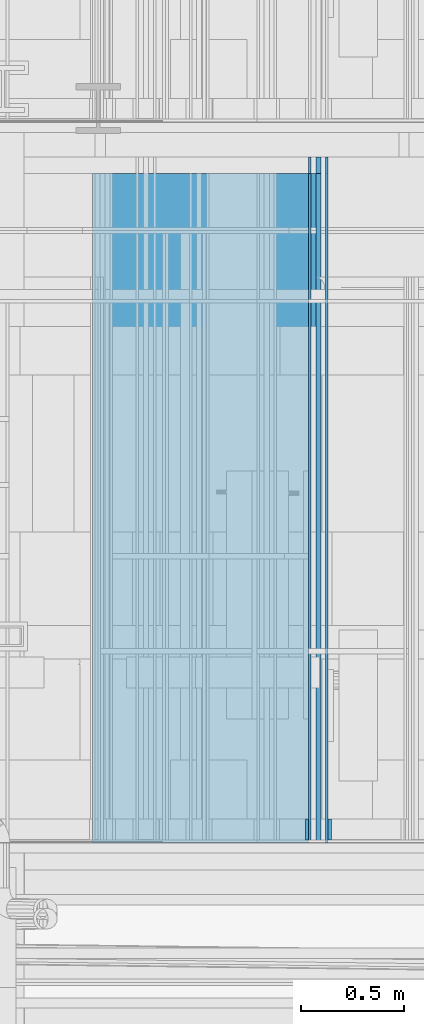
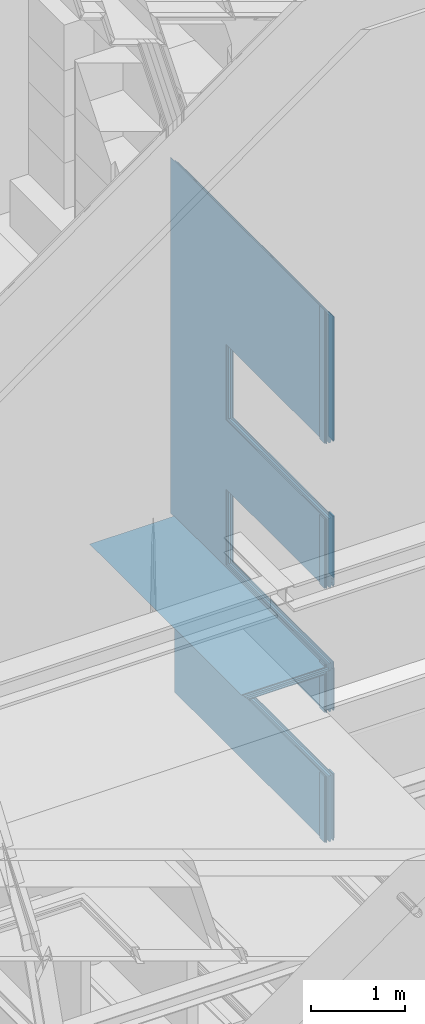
# One storey, part 100 of 583: 17 building element parts, 5 openings, 3 elements without a shape of their own.
"""IFC2X3 building model written with IfcOpenShell, lengths in metres."""

from ifc_helpers import new_model, entity, si_unit, converted_unit, derived_unit, money_unit, direction, frame, frame_2d, origin_with_axes, place, context, subcontext, project, spatial, polyline, rectangle, outline, extrude, material, type_object, element, aggregate, save


model = new_model("IFC2X3")

# Units and contexts
model_context = context("Model", 3, precision=1e-05, world=origin_with_axes(), true_north=direction((0.0, 1.0)))
body_context = subcontext(model_context, "Body", "Model", "MODEL_VIEW", scale=1.0)
ifc_project = project(units=[si_unit("LENGTHUNIT", "METRE"), si_unit("AREAUNIT", "SQUARE_METRE"), si_unit("VOLUMEUNIT", "CUBIC_METRE"), si_unit("ABSORBEDDOSEUNIT", "GRAY"), si_unit("AMOUNTOFSUBSTANCEUNIT", "MOLE"), si_unit("DOSEEQUIVALENTUNIT", "SIEVERT"), si_unit("ELECTRICCAPACITANCEUNIT", "FARAD"), si_unit("ELECTRICCHARGEUNIT", "COULOMB"), si_unit("ELECTRICCONDUCTANCEUNIT", "SIEMENS"), si_unit("ELECTRICCURRENTUNIT", "AMPERE"), si_unit("ELECTRICRESISTANCEUNIT", "OHM"), si_unit("ELECTRICVOLTAGEUNIT", "VOLT"), si_unit("ENERGYUNIT", "JOULE"), si_unit("FORCEUNIT", "NEWTON"), si_unit("FREQUENCYUNIT", "HERTZ"), si_unit("ILLUMINANCEUNIT", "LUX"), si_unit("INDUCTANCEUNIT", "HENRY"), si_unit("LUMINOUSFLUXUNIT", "LUMEN"), si_unit("LUMINOUSINTENSITYUNIT", "CANDELA"), si_unit("MAGNETICFLUXDENSITYUNIT", "TESLA"), si_unit("MAGNETICFLUXUNIT", "WEBER"), si_unit("MASSUNIT", "GRAM"), converted_unit("PLANEANGLEUNIT", "degree", entity("IfcReal", 0.0174532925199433), si_unit("PLANEANGLEUNIT", "RADIAN"), dimensions=[0, 0, 0, 0, 0, 0, 0]), si_unit("POWERUNIT", "WATT"), si_unit("PRESSUREUNIT", "PASCAL"), si_unit("RADIOACTIVITYUNIT", "BECQUEREL"), si_unit("SOLIDANGLEUNIT", "STERADIAN"), si_unit("THERMODYNAMICTEMPERATUREUNIT", "KELVIN"), si_unit("TIMEUNIT", "SECOND"), derived_unit("ACCELERATIONUNIT", [(si_unit("LENGTHUNIT", "METRE"), 1), (si_unit("TIMEUNIT", "SECOND"), -2)]), derived_unit("ANGULARVELOCITYUNIT", [(converted_unit("PLANEANGLEUNIT", "degree", entity("IfcReal", 0.0174532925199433), si_unit("PLANEANGLEUNIT", "RADIAN"), dimensions=[0, 0, 0, 0, 0, 0, 0]), 1), (si_unit("TIMEUNIT", "SECOND"), -1)]), derived_unit("CURVATUREUNIT", [(converted_unit("PLANEANGLEUNIT", "degree", entity("IfcReal", 0.0174532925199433), si_unit("PLANEANGLEUNIT", "RADIAN"), dimensions=[0, 0, 0, 0, 0, 0, 0]), 1), (si_unit("LENGTHUNIT", "METRE"), -1)]), derived_unit("DYNAMICVISCOSITYUNIT", [(si_unit("PRESSUREUNIT", "PASCAL"), 1), (si_unit("TIMEUNIT", "SECOND"), 1)]), derived_unit("HEATFLUXDENSITYUNIT", [(si_unit("POWERUNIT", "WATT"), 1), (si_unit("LENGTHUNIT", "METRE"), -2)]), derived_unit("HEATINGVALUEUNIT", [(si_unit("ENERGYUNIT", "JOULE"), 1), (si_unit("MASSUNIT", "GRAM"), -1)]), derived_unit("INTEGERCOUNTRATEUNIT", [(si_unit("TIMEUNIT", "SECOND"), -1)]), derived_unit("IONCONCENTRATIONUNIT", [(si_unit("MASSUNIT", "GRAM"), 1), (si_unit("VOLUMEUNIT", "CUBIC_METRE"), -1)]), derived_unit("ISOTHERMALMOISTURECAPACITYUNIT", [(si_unit("VOLUMEUNIT", "CUBIC_METRE"), 1), (si_unit("MASSUNIT", "GRAM"), -1)]), derived_unit("KINEMATICVISCOSITYUNIT", [(si_unit("AREAUNIT", "SQUARE_METRE"), 1), (si_unit("TIMEUNIT", "SECOND"), -1)]), derived_unit("LINEARFORCEUNIT", [(si_unit("FORCEUNIT", "NEWTON"), 1), (si_unit("LENGTHUNIT", "METRE"), -1)]), derived_unit("LINEARMOMENTUNIT", [(si_unit("FORCEUNIT", "NEWTON"), 1), (si_unit("LENGTHUNIT", "METRE"), -1)]), derived_unit("LINEARSTIFFNESSUNIT", [(si_unit("FORCEUNIT", "NEWTON"), 1), (si_unit("LENGTHUNIT", "METRE"), -1)]), derived_unit("LINEARVELOCITYUNIT", [(si_unit("LENGTHUNIT", "METRE"), 1), (si_unit("TIMEUNIT", "SECOND"), -1)]), derived_unit("LUMINOUSINTENSITYDISTRIBUTIONUNIT", [(si_unit("LUMINOUSINTENSITYUNIT", "CANDELA"), 1), (si_unit("LUMINOUSFLUXUNIT", "LUMEN"), -1)]), derived_unit("MASSDENSITYUNIT", [(si_unit("MASSUNIT", "GRAM"), 1), (si_unit("VOLUMEUNIT", "CUBIC_METRE"), -1)]), derived_unit("MASSFLOWRATEUNIT", [(si_unit("MASSUNIT", "GRAM"), 1), (si_unit("TIMEUNIT", "SECOND"), -1)]), derived_unit("MASSPERLENGTHUNIT", [(si_unit("MASSUNIT", "GRAM"), 1), (si_unit("LENGTHUNIT", "METRE"), -1)]), derived_unit("MODULUSOFELASTICITYUNIT", [(si_unit("FORCEUNIT", "NEWTON"), 1), (si_unit("AREAUNIT", "SQUARE_METRE"), -1)]), derived_unit("MODULUSOFLINEARSUBGRADEREACTIONUNIT", [(si_unit("FORCEUNIT", "NEWTON"), 1), (si_unit("LENGTHUNIT", "METRE"), -2)]), derived_unit("MODULUSOFROTATIONALSUBGRADEREACTIONUNIT", [(si_unit("FORCEUNIT", "NEWTON"), 1), (si_unit("LENGTHUNIT", "METRE"), 1)]), derived_unit("MODULUSOFSUBGRADEREACTIONUNIT", [(si_unit("FORCEUNIT", "NEWTON"), 1), (si_unit("VOLUMEUNIT", "CUBIC_METRE"), -1)]), derived_unit("MOISTUREDIFFUSIVITYUNIT", [(si_unit("VOLUMEUNIT", "CUBIC_METRE"), 1), (si_unit("TIMEUNIT", "SECOND"), -1)]), derived_unit("MOLECULARWEIGHTUNIT", [(si_unit("MASSUNIT", "GRAM"), 1), (si_unit("AMOUNTOFSUBSTANCEUNIT", "MOLE"), -1)]), derived_unit("PLANARFORCEUNIT", [(si_unit("FORCEUNIT", "NEWTON"), 1), (si_unit("LENGTHUNIT", "METRE"), -2)]), derived_unit("ROTATIONALFREQUENCYUNIT", [(si_unit("TIMEUNIT", "SECOND"), -1)]), derived_unit("ROTATIONALMASSUNIT", [(si_unit("MASSUNIT", "GRAM"), 1), (si_unit("LENGTHUNIT", "METRE"), 2)]), derived_unit("ROTATIONALSTIFFNESSUNIT", [(si_unit("FORCEUNIT", "NEWTON"), 1), (si_unit("LENGTHUNIT", "METRE"), 1), (converted_unit("PLANEANGLEUNIT", "degree", entity("IfcReal", 0.0174532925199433), si_unit("PLANEANGLEUNIT", "RADIAN"), dimensions=[0, 0, 0, 0, 0, 0, 0]), -1)]), derived_unit("SECTIONAREAINTEGRALUNIT", [(si_unit("LENGTHUNIT", "METRE"), 5)]), derived_unit("SECTIONMODULUSUNIT", [(si_unit("LENGTHUNIT", "METRE"), 3)]), derived_unit("SHEARMODULUSUNIT", [(si_unit("FORCEUNIT", "NEWTON"), 1), (si_unit("AREAUNIT", "SQUARE_METRE"), -1)]), derived_unit("SOUNDPOWERUNIT", [(si_unit("ENERGYUNIT", "JOULE"), 1), (si_unit("TIMEUNIT", "SECOND"), -1)]), derived_unit("SPECIFICHEATCAPACITYUNIT", [(si_unit("FORCEUNIT", "NEWTON"), 1), (si_unit("MASSUNIT", "GRAM"), -1), (si_unit("THERMODYNAMICTEMPERATUREUNIT", "KELVIN"), -1)]), derived_unit("TEMPERATUREGRADIENTUNIT", [(si_unit("THERMODYNAMICTEMPERATUREUNIT", "KELVIN"), 1), (si_unit("LENGTHUNIT", "METRE"), -1)]), derived_unit("THERMALADMITTANCEUNIT", [(si_unit("POWERUNIT", "WATT"), 1), (si_unit("AREAUNIT", "SQUARE_METRE"), -1), (si_unit("THERMODYNAMICTEMPERATUREUNIT", "KELVIN"), -1)]), derived_unit("THERMALCONDUCTANCEUNIT", [(si_unit("POWERUNIT", "WATT"), 1), (si_unit("LENGTHUNIT", "METRE"), -1), (si_unit("THERMODYNAMICTEMPERATUREUNIT", "KELVIN"), -1)]), derived_unit("THERMALEXPANSIONCOEFFICIENTUNIT", [(si_unit("THERMODYNAMICTEMPERATUREUNIT", "KELVIN"), -1)]), derived_unit("THERMALRESISTANCEUNIT", [(si_unit("AREAUNIT", "SQUARE_METRE"), 1), (si_unit("POWERUNIT", "WATT"), -1)]), derived_unit("THERMALTRANSMITTANCEUNIT", [(si_unit("POWERUNIT", "WATT"), 1), (si_unit("AREAUNIT", "SQUARE_METRE"), -1), (si_unit("THERMODYNAMICTEMPERATUREUNIT", "KELVIN"), -1)]), derived_unit("TORQUEUNIT", [(si_unit("FORCEUNIT", "NEWTON"), 1), (si_unit("LENGTHUNIT", "METRE"), 1)]), derived_unit("VAPORPERMEABILITYUNIT", [(si_unit("MASSUNIT", "GRAM"), 1), (si_unit("TIMEUNIT", "SECOND"), -1)]), derived_unit("VOLUMETRICFLOWRATEUNIT", [(si_unit("VOLUMEUNIT", "CUBIC_METRE"), 1), (si_unit("TIMEUNIT", "SECOND"), -1)]), derived_unit("WARPINGCONSTANTUNIT", [(si_unit("LENGTHUNIT", "METRE"), 6)]), derived_unit("WARPINGMOMENTUNIT", [(si_unit("FORCEUNIT", "NEWTON"), 1), (si_unit("LENGTHUNIT", "METRE"), 2)]), money_unit("GBP")], contexts=[model_context])

# Site, building, storey
site_placement = place(None, origin_with_axes())
site = spatial("IfcSite", under=ifc_project, at=site_placement, Name="Site", CompositionType="ELEMENT")
building_placement = place(site_placement, origin_with_axes())
building = spatial("IfcBuilding", under=site, at=building_placement, Name="Building01", CompositionType="ELEMENT")
storey_placement = place(building_placement, frame((0.0, 0.0, 20.78), z_axis=(0.0, 0.0, 1.0), x_axis=(1.0, 0.0, 0.0)))
storey = spatial("IfcBuildingStorey", under=building, at=storey_placement, Name="RL", CompositionType="ELEMENT", Elevation=20.78)

# Wall, opening, building element parts
wall_type = type_object("IfcWallType", Name="SHE_A-Walls_Type05a_Partition_95mm_tall", PredefinedType="NOTDEFINED")
wall_1_placement = place(storey_placement, frame((10.63, 5.15, -2.84), z_axis=(0.0, 1.0, 0.0), x_axis=(0.0, 0.0, -1.0)))
wall_1 = element("IfcWall", 1, at=wall_1_placement, inside=storey, type_object=wall_type, Name="5A", ObjectType="SHE_A-Walls_Type05a_Partition_95mm_tall")
opening_1_placement = place(wall_1_placement, frame((0.540552, -0.035, 0.0), z_axis=(0.0, 0.0, 1.0), x_axis=(1.0, 0.0, 0.0)))
element("IfcOpeningElement", 2, at=opening_1_placement, cuts=wall_1, Name="Opening", ObjectType="Opening", context=body_context, shape_type="SweptSolid", body=[
    extrude(rectangle(XDim=2.142, YDim=0.834, at=frame_2d((0.417, 1.071), x_axis=(0.0, -1.0))), frame((0.0, 4.32825, 0.0), z_axis=(0.0, -1.0, 0.0), x_axis=(1.0, 0.0, 0.0)), (0.0, 0.0, 1.0), 8.6565),
])
ifc_material_1 = material(Name="A_BSUK_Insulation")
placement_1 = place(wall_1_placement, origin_with_axes())
building_element_part_1 = element("IfcBuildingElementPart", 3, at=placement_1, material=ifc_material_1, Name="1", context=body_context, shape_type="SweptSolid", body=[
    extrude(rectangle(XDim=2.231868, YDim=0.025, at=frame_2d((1.115934, 0.0125), x_axis=(-1.0, 0.0))), origin_with_axes(), (0.0, 0.0, 1.0), 3.24),
])
ifc_material_2 = material(Name="A_BSUK_Walls_Timber")
building_element_part_2 = element("IfcBuildingElementPart", 4, at=placement_1, material=ifc_material_2, Name="2", context=body_context, shape_type="SweptSolid", body=[
    extrude(rectangle(XDim=2.196868, YDim=0.015, at=frame_2d((1.133434, 0.0675), x_axis=(-1.0, 0.0))), frame((0.0, 0.0, 0.015), z_axis=(0.0, 0.0, 1.0), x_axis=(1.0, 0.0, 0.0)), (0.0, 0.0, 1.0), 0.1),
])
building_element_part_3 = element("IfcBuildingElementPart", 5, at=placement_1, material=ifc_material_2, Name="3", context=body_context, shape_type="SweptSolid", body=[
    extrude(rectangle(XDim=2.216868, YDim=0.015, at=frame_2d((1.108434, -0.0425), x_axis=(-1.0, 0.0))), frame((0.0, 0.0, 0.015), z_axis=(0.0, 0.0, 1.0), x_axis=(1.0, 0.0, 0.0)), (0.0, 0.0, 1.0), 0.1),
])
ifc_material_3 = material(Name="A_BSUK_WallInternal_Finishes_Plasterboard")
building_element_part_4 = element("IfcBuildingElementPart", 6, at=placement_1, material=ifc_material_3, Name="4", context=body_context, shape_type="SweptSolid", body=[
    extrude(rectangle(XDim=2.208868, YDim=0.012, at=frame_2d((1.127434, 0.054), x_axis=(-1.0, 0.0))), origin_with_axes(), (0.0, 0.0, 1.0), 3.24),
])
building_element_part_5 = element("IfcBuildingElementPart", 7, at=placement_1, material=ifc_material_3, Name="5", context=body_context, shape_type="SweptSolid", body=[
    extrude(rectangle(XDim=2.231868, YDim=0.012, at=frame_2d((1.115934, -0.029), x_axis=(-1.0, 0.0))), origin_with_axes(), (0.0, 0.0, 1.0), 3.24),
])
aggregate(wall_1, [building_element_part_1, building_element_part_2, building_element_part_3, building_element_part_4, building_element_part_5])

# Wall, building element parts
wall_2_placement = place(storey_placement, frame((9.585, 5.15, -2.84), z_axis=(0.0, 1.0, 0.0), x_axis=(1.0, 0.0, 0.0)))
wall_2 = element("IfcWall", 8, at=wall_2_placement, inside=storey, type_object=wall_type, Name="5A", ObjectType="SHE_A-Walls_Type05a_Partition_95mm_tall")
placement_2 = place(wall_2_placement, origin_with_axes())
building_element_part_6 = element("IfcBuildingElementPart", 9, at=placement_2, material=ifc_material_1, Name="1", context=body_context, shape_type="SweptSolid", body=[
    extrude(outline(polyline([(1.02, 0.0), (0.0, 0.0), (-0.025, -0.025), (1.02, -0.025), (1.02, 0.0)])), origin_with_axes(), (0.0, 0.0, 1.0), 3.24),
])
building_element_part_7 = element("IfcBuildingElementPart", 10, at=placement_2, material=ifc_material_3, Name="4", context=body_context, shape_type="SweptSolid", body=[
    extrude(outline(polyline([(0.985, 0.035), (0.035, 0.035), (0.023, 0.023), (0.985, 0.023), (0.985, 0.035)])), origin_with_axes(), (0.0, 0.0, 1.0), 3.24),
])
building_element_part_8 = element("IfcBuildingElementPart", 11, at=placement_2, material=ifc_material_3, Name="5", context=body_context, shape_type="SweptSolid", body=[
    extrude(outline(polyline([(0.985, -0.048), (-0.048, -0.048), (-0.06, -0.06), (0.985, -0.06), (0.985, -0.048)])), origin_with_axes(), (0.0, 0.0, 1.0), 3.24),
])
aggregate(wall_2, [building_element_part_6, building_element_part_7, building_element_part_8])

# Wall, openings, building element parts
wall_3_placement = place(storey_placement, frame((10.605, 5.15, -2.84), z_axis=(0.0, 1.0, 0.0), x_axis=(0.0, 0.0, 1.0)))
wall_3 = element("IfcWall", 12, at=wall_3_placement, inside=storey, type_object=wall_type, Name="5A", ObjectType="SHE_A-Walls_Type05a_Partition_95mm_tall")
opening_2_placement = place(wall_3_placement, frame((0.093398, 0.005, -0.015), z_axis=(0.0, 0.0, 1.0), x_axis=(1.0, 0.0, 0.0)))
element("IfcOpeningElement", 13, at=opening_2_placement, cuts=wall_3, Name="Opening", ObjectType="Opening", context=body_context, shape_type="SweptSolid", body=[
    extrude(rectangle(XDim=0.984, YDim=2.142, at=frame_2d((-0.492, 1.071), x_axis=(1.0, 0.0))), frame((0.0, -0.03, 0.0), z_axis=(0.0, 1.0, 0.0), x_axis=(-1.0, 0.0, 0.0)), (0.0, 0.0, 1.0), 0.06),
])
opening_3_placement = place(wall_3_placement, frame((1.978284, 0.005, -0.015), z_axis=(0.0, 0.0, 1.0), x_axis=(1.0, 0.0, 0.0)))
element("IfcOpeningElement", 14, at=opening_3_placement, cuts=wall_3, Name="Opening", ObjectType="Opening", context=body_context, shape_type="SweptSolid", body=[
    extrude(rectangle(XDim=0.984, YDim=2.142, at=frame_2d((-0.492, 1.071), x_axis=(-1.0, 0.0))), frame((0.0, -0.03, 0.0), z_axis=(0.0, 1.0, 0.0), x_axis=(-1.0, 0.0, 0.0)), (0.0, 0.0, 1.0), 0.06),
])
opening_4_placement = place(wall_3_placement, frame((0.093398, 0.045, 0.0), z_axis=(0.0, 0.0, 1.0), x_axis=(1.0, 0.0, 0.0)))
element("IfcOpeningElement", 15, at=opening_4_placement, cuts=wall_3, Name="Opening", ObjectType="Opening", context=body_context, shape_type="SweptSolid", body=[
    extrude(rectangle(XDim=2.142, YDim=0.984, at=frame_2d((-0.492, 1.071), x_axis=(0.0, -1.0))), frame((0.0, -6.285124, 0.0), z_axis=(0.0, 1.0, 0.0), x_axis=(-1.0, 0.0, 0.0)), (0.0, 0.0, 1.0), 12.570247),
])
opening_5_placement = place(wall_3_placement, frame((1.978284, 0.045, 0.0), z_axis=(0.0, 0.0, 1.0), x_axis=(1.0, 0.0, 0.0)))
element("IfcOpeningElement", 16, at=opening_5_placement, cuts=wall_3, Name="Opening", ObjectType="Opening", context=body_context, shape_type="SweptSolid", body=[
    extrude(rectangle(XDim=2.142, YDim=0.984, at=frame_2d((-0.492, 1.071), x_axis=(0.0, -1.0))), frame((0.0, -6.285124, 0.0), z_axis=(0.0, 1.0, 0.0), x_axis=(-1.0, 0.0, 0.0)), (0.0, 0.0, 1.0), 12.570247),
])
placement_3 = place(wall_3_placement, origin_with_axes())
building_element_part_9 = element("IfcBuildingElementPart", 17, at=placement_3, material=ifc_material_1, Name="1", context=body_context, shape_type="SweptSolid", body=[
    extrude(rectangle(XDim=4.625, YDim=0.025, at=frame_2d((2.3125, 0.0125), x_axis=(-1.0, 0.0))), origin_with_axes(), (0.0, 0.0, 1.0), 3.32),
])
building_element_part_10 = element("IfcBuildingElementPart", 18, at=placement_3, material=ifc_material_2, Name="2", context=body_context, shape_type="SweptSolid", body=[
    extrude(rectangle(XDim=0.015, YDim=0.881, at=frame_2d((1.510784, 0.0675), x_axis=(0.0, -1.0))), frame((0.0, 0.0, 0.015), z_axis=(0.0, 0.0, 1.0), x_axis=(1.0, 0.0, 0.0)), (0.0, 0.0, 1.0), 0.1),
])
building_element_part_11 = element("IfcBuildingElementPart", 19, at=placement_3, material=ifc_material_2, Name="3", context=body_context, shape_type="SweptSolid", body=[
    extrude(outline(polyline([(4.685, -0.035), (0.06, -0.035), (0.06, -0.05), (4.7, -0.05), (4.685, -0.035)])), frame((0.0, 0.0, 0.015), z_axis=(0.0, 0.0, 1.0), x_axis=(1.0, 0.0, 0.0)), (0.0, 0.0, 1.0), 0.1),
])
building_element_part_12 = element("IfcBuildingElementPart", 20, at=placement_3, material=ifc_material_2, Name="4", context=body_context, shape_type="SweptSolid", body=[
    extrude(outline(polyline([(4.575, 0.075), (1.070284, 0.075), (1.085284, 0.06), (4.59, 0.06), (4.575, 0.075)])), frame((0.0, 0.0, 0.015), z_axis=(0.0, 0.0, 1.0), x_axis=(1.0, 0.0, 0.0)), (0.0, 0.0, 1.0), 0.1),
])
building_element_part_13 = element("IfcBuildingElementPart", 21, at=placement_3, material=ifc_material_2, Name="5", context=body_context, shape_type="SweptSolid", body=[
    extrude(outline(polyline([(4.575, 0.075), (1.180284, 0.075), (1.180284, 0.06), (4.59, 0.06), (4.575, 0.075)])), frame((0.0, 0.0, 0.015), z_axis=(0.0, 0.0, 1.0), x_axis=(1.0, 0.0, 0.0)), (0.0, 0.0, 1.0), 0.1),
])
building_element_part_14 = element("IfcBuildingElementPart", 22, at=placement_3, material=ifc_material_2, Name="6", context=body_context, shape_type="SweptSolid", body=[
    extrude(outline(polyline([(4.575, 0.075), (2.920284, 0.075), (2.920284, 0.06), (4.59, 0.06), (4.575, 0.075)])), frame((0.0, 0.0, 0.015), z_axis=(0.0, 0.0, 1.0), x_axis=(1.0, 0.0, 0.0)), (0.0, 0.0, 1.0), 0.1),
])
building_element_part_15 = element("IfcBuildingElementPart", 23, at=placement_3, material=ifc_material_3, Name="7", context=body_context, shape_type="SweptSolid", body=[
    extrude(rectangle(XDim=1.097284, YDim=0.012, at=frame_2d((0.548642, 0.054), x_axis=(-1.0, 0.0))), origin_with_axes(), (0.0, 0.0, 1.0), 3.32),
])
building_element_part_16 = element("IfcBuildingElementPart", 24, at=placement_3, material=ifc_material_3, Name="8", context=body_context, shape_type="SweptSolid", body=[
    extrude(outline(polyline([(4.673, -0.023), (0.048, -0.023), (0.048, -0.035), (4.685, -0.035), (4.673, -0.023)])), origin_with_axes(), (0.0, 0.0, 1.0), 3.32),
])
building_element_part_17 = element("IfcBuildingElementPart", 25, at=placement_3, material=ifc_material_3, Name="9", context=body_context, shape_type="SweptSolid", body=[
    extrude(outline(polyline([(4.59, 0.06), (1.168284, 0.06), (1.168284, 0.048), (4.602, 0.048), (4.59, 0.06)])), origin_with_axes(), (0.0, 0.0, 1.0), 3.32),
])
aggregate(wall_3, [building_element_part_9, building_element_part_10, building_element_part_11, building_element_part_12, building_element_part_13, building_element_part_14, building_element_part_15, building_element_part_16, building_element_part_17])

save(model, "model.ifc")
